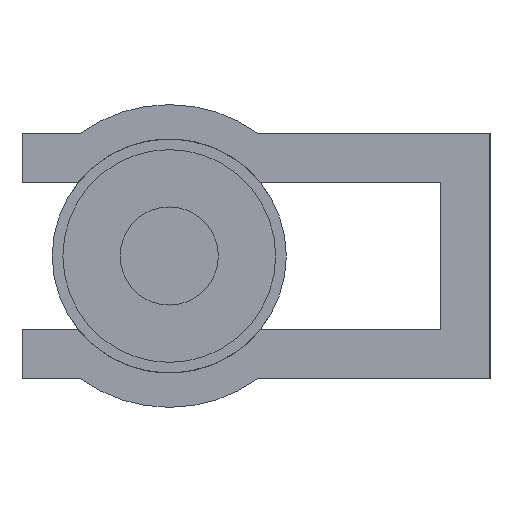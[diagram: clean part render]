
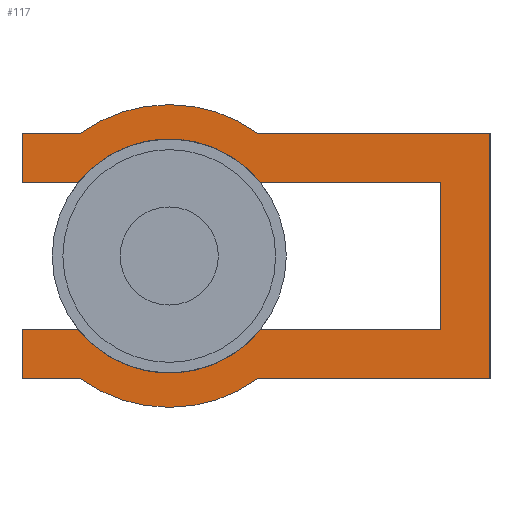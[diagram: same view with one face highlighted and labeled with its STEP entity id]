
A CAD part, left-side view. The second image highlights one B-rep face of the part: STEP entity #117.
In plain terms, the highlighted planar face has unit normal (-1, 0, 0).
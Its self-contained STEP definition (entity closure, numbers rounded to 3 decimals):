
#117=ADVANCED_FACE('',(#236),#237,.F.);
#236=FACE_OUTER_BOUND('',#373,.T.);
#237=PLANE('',#374);
#373=EDGE_LOOP('',(#716,#717,#718,#719,#720,#721,#722,#723,#724,#725,#726,#727,#728,#729,#730,#731));
#374=AXIS2_PLACEMENT_3D('',#732,#733,#734);
#716=ORIENTED_EDGE('',*,*,#840,.F.);
#717=ORIENTED_EDGE('',*,*,#892,.T.);
#718=ORIENTED_EDGE('',*,*,#844,.F.);
#719=ORIENTED_EDGE('',*,*,#938,.F.);
#720=ORIENTED_EDGE('',*,*,#898,.F.);
#721=ORIENTED_EDGE('',*,*,#894,.T.);
#722=ORIENTED_EDGE('',*,*,#876,.F.);
#723=ORIENTED_EDGE('',*,*,#832,.F.);
#724=ORIENTED_EDGE('',*,*,#829,.F.);
#725=ORIENTED_EDGE('',*,*,#910,.F.);
#726=ORIENTED_EDGE('',*,*,#836,.F.);
#727=ORIENTED_EDGE('',*,*,#928,.F.);
#728=ORIENTED_EDGE('',*,*,#933,.F.);
#729=ORIENTED_EDGE('',*,*,#850,.F.);
#730=ORIENTED_EDGE('',*,*,#885,.F.);
#731=ORIENTED_EDGE('',*,*,#939,.F.);
#732=CARTESIAN_POINT('',(-16.4,0.0,0.0));
#733=DIRECTION('',(1.0,0.0,0.0));
#734=DIRECTION('',(0.0,1.0,0.0));
#829=EDGE_CURVE('',#961,#963,#964,.T.);
#832=EDGE_CURVE('',#963,#968,#969,.T.);
#836=EDGE_CURVE('',#974,#976,#977,.T.);
#840=EDGE_CURVE('',#982,#984,#985,.T.);
#844=EDGE_CURVE('',#990,#992,#993,.T.);
#850=EDGE_CURVE('',#1002,#1004,#1005,.T.);
#876=EDGE_CURVE('',#968,#1054,#1055,.T.);
#885=EDGE_CURVE('',#1067,#1002,#1069,.T.);
#892=EDGE_CURVE('',#982,#992,#1079,.T.);
#894=EDGE_CURVE('',#1082,#1054,#1083,.T.);
#898=EDGE_CURVE('',#1082,#1089,#1090,.T.);
#910=EDGE_CURVE('',#976,#961,#1109,.T.);
#928=EDGE_CURVE('',#1135,#974,#1137,.T.);
#933=EDGE_CURVE('',#1004,#1135,#1145,.T.);
#938=EDGE_CURVE('',#1089,#990,#1152,.T.);
#939=EDGE_CURVE('',#984,#1067,#1153,.T.);
#961=VERTEX_POINT('',#1178);
#963=VERTEX_POINT('',#1181);
#964=LINE('',#1182,#1183);
#968=VERTEX_POINT('',#1189);
#969=LINE('',#1190,#1191);
#974=VERTEX_POINT('',#1198);
#976=VERTEX_POINT('',#1201);
#977=LINE('',#1202,#1203);
#982=VERTEX_POINT('',#1210);
#984=VERTEX_POINT('',#1213);
#985=LINE('',#1214,#1215);
#990=VERTEX_POINT('',#1222);
#992=VERTEX_POINT('',#1225);
#993=LINE('',#1226,#1227);
#1002=VERTEX_POINT('',#1237);
#1004=VERTEX_POINT('',#1240);
#1005=CIRCLE('',#1241,9.25);
#1054=VERTEX_POINT('',#1307);
#1055=LINE('',#1308,#1309);
#1067=VERTEX_POINT('',#1328);
#1069=LINE('',#1331,#1332);
#1079=CIRCLE('',#1345,7.15);
#1082=VERTEX_POINT('',#1348);
#1083=CIRCLE('',#1349,7.15);
#1089=VERTEX_POINT('',#1357);
#1090=LINE('',#1358,#1359);
#1109=CIRCLE('',#1385,9.25);
#1135=VERTEX_POINT('',#1424);
#1137=LINE('',#1427,#1428);
#1145=LINE('',#1437,#1438);
#1152=LINE('',#1447,#1448);
#1153=LINE('',#1449,#1450);
#1178=CARTESIAN_POINT('',(-16.4,5.414,-7.5));
#1181=CARTESIAN_POINT('',(-16.4,9.0,-7.5));
#1182=CARTESIAN_POINT('',(-16.4,5.414,-7.5));
#1183=VECTOR('',#1485,1.0);
#1189=CARTESIAN_POINT('',(-16.4,9.0,-4.5));
#1190=CARTESIAN_POINT('',(-16.4,9.0,-7.5));
#1191=VECTOR('',#1488,1.0);
#1198=CARTESIAN_POINT('',(-16.4,-19.6,-7.5));
#1201=CARTESIAN_POINT('',(-16.4,-5.414,-7.5));
#1202=CARTESIAN_POINT('',(-16.4,-19.6,-7.5));
#1203=VECTOR('',#1492,1.0);
#1210=CARTESIAN_POINT('',(-16.4,5.556,4.5));
#1213=CARTESIAN_POINT('',(-16.4,9.0,4.5));
#1214=CARTESIAN_POINT('',(-16.4,4.337,4.5));
#1215=VECTOR('',#1496,1.0);
#1222=CARTESIAN_POINT('',(-16.4,-16.6,4.5));
#1225=CARTESIAN_POINT('',(-16.4,-5.556,4.5));
#1226=CARTESIAN_POINT('',(-16.4,-16.6,4.5));
#1227=VECTOR('',#1500,1.0);
#1237=CARTESIAN_POINT('',(-16.4,5.414,7.5));
#1240=CARTESIAN_POINT('',(-16.4,-5.414,7.5));
#1241=AXIS2_PLACEMENT_3D('',#1512,#1513,#1514);
#1307=CARTESIAN_POINT('',(-16.4,5.556,-4.5));
#1308=CARTESIAN_POINT('',(-16.4,9.0,-4.5));
#1309=VECTOR('',#1556,1.0);
#1328=CARTESIAN_POINT('',(-16.4,9.0,7.5));
#1331=CARTESIAN_POINT('',(-16.4,9.0,7.5));
#1332=VECTOR('',#1565,1.0);
#1345=AXIS2_PLACEMENT_3D('',#1578,#1579,#1580);
#1348=CARTESIAN_POINT('',(-16.4,-5.556,-4.5));
#1349=AXIS2_PLACEMENT_3D('',#1584,#1585,#1586);
#1357=CARTESIAN_POINT('',(-16.4,-16.6,-4.5));
#1358=CARTESIAN_POINT('',(-16.4,-4.337,-4.5));
#1359=VECTOR('',#1592,1.0);
#1385=AXIS2_PLACEMENT_3D('',#1612,#1613,#1614);
#1424=CARTESIAN_POINT('',(-16.4,-19.6,7.5));
#1427=CARTESIAN_POINT('',(-16.4,-19.6,7.5));
#1428=VECTOR('',#1638,1.0);
#1437=CARTESIAN_POINT('',(-16.4,-5.414,7.5));
#1438=VECTOR('',#1649,1.0);
#1447=CARTESIAN_POINT('',(-16.4,-16.6,-4.5));
#1448=VECTOR('',#1658,1.0);
#1449=CARTESIAN_POINT('',(-16.4,9.0,4.5));
#1450=VECTOR('',#1659,1.0);
#1485=DIRECTION('',(0.0,1.0,0.0));
#1488=DIRECTION('',(0.0,0.0,1.0));
#1492=DIRECTION('',(0.0,1.0,0.0));
#1496=DIRECTION('',(0.0,1.0,0.0));
#1500=DIRECTION('',(0.0,1.0,0.0));
#1512=CARTESIAN_POINT('',(-16.4,0.0,0.0));
#1513=DIRECTION('',(1.0,0.0,0.0));
#1514=DIRECTION('',(0.0,0.0,-1.0));
#1556=DIRECTION('',(0.0,-1.0,0.0));
#1565=DIRECTION('',(0.0,-1.0,0.0));
#1578=CARTESIAN_POINT('',(-16.4,0.,0.0));
#1579=DIRECTION('',(1.0,0.0,0.0));
#1580=DIRECTION('',(0.0,0.0,-1.0));
#1584=CARTESIAN_POINT('',(-16.4,0.,0.0));
#1585=DIRECTION('',(1.0,0.0,0.0));
#1586=DIRECTION('',(0.0,0.0,-1.0));
#1592=DIRECTION('',(0.0,-1.0,0.0));
#1612=CARTESIAN_POINT('',(-16.4,0.0,0.));
#1613=DIRECTION('',(1.0,0.0,0.0));
#1614=DIRECTION('',(0.0,0.0,-1.0));
#1638=DIRECTION('',(0.0,0.0,-1.0));
#1649=DIRECTION('',(0.0,-1.0,0.0));
#1658=DIRECTION('',(0.0,0.0,1.0));
#1659=DIRECTION('',(0.0,0.0,1.0));
